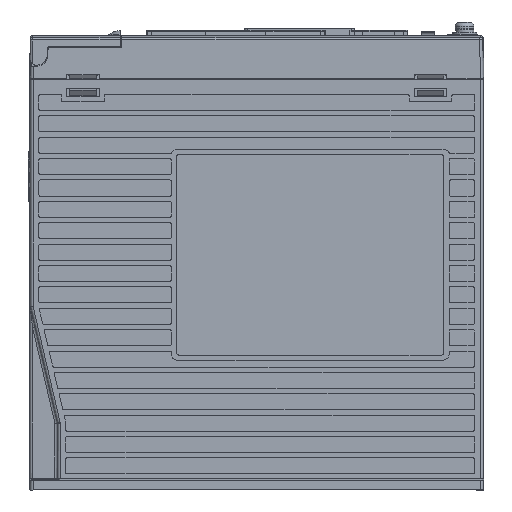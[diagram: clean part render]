
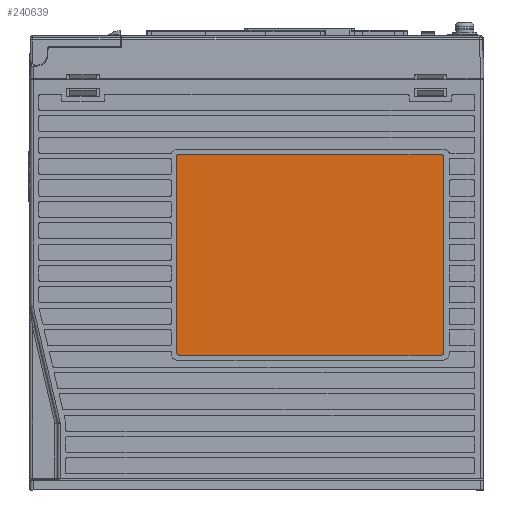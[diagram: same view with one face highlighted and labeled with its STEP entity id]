
A CAD part, left-side view. The second image highlights one B-rep face of the part: STEP entity #240639.
In plain terms, the highlighted planar face has unit normal (-1, 0, 0).
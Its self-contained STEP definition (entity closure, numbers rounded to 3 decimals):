
#93782=CARTESIAN_POINT('',(-22.2,29.,124.5));
#93783=DIRECTION('',(-1.,0.,0.));
#93784=DIRECTION('',(0.,0.,1.));
#93785=AXIS2_PLACEMENT_3D('',#93782,#93783,#93784);
#93790=DIRECTION('',(0.,1.,0.));
#93791=VECTOR('',#93790,98.);
#93792=CARTESIAN_POINT('',(-22.2,-69.,125.5));
#93793=LINE('',#93792,#93791);
#93797=CARTESIAN_POINT('',(-22.2,-69.,124.5));
#93798=DIRECTION('',(-1.,0.,0.));
#93799=DIRECTION('',(0.,-1.,0.));
#93800=AXIS2_PLACEMENT_3D('',#93797,#93798,#93799);
#93805=DIRECTION('',(0.,0.,1.));
#93806=VECTOR('',#93805,73.);
#93807=CARTESIAN_POINT('',(-22.2,-70.,51.5));
#93808=LINE('',#93807,#93806);
#93812=CARTESIAN_POINT('',(-22.2,-69.,51.5));
#93813=DIRECTION('',(-1.,0.,0.));
#93814=DIRECTION('',(0.,0.,-1.));
#93815=AXIS2_PLACEMENT_3D('',#93812,#93813,#93814);
#93820=DIRECTION('',(0.,-1.,0.));
#93821=VECTOR('',#93820,98.);
#93822=CARTESIAN_POINT('',(-22.2,29.,50.5));
#93823=LINE('',#93822,#93821);
#93827=CARTESIAN_POINT('',(-22.2,29.,51.5));
#93828=DIRECTION('',(-1.,0.,0.));
#93829=DIRECTION('',(0.,1.,0.));
#93830=AXIS2_PLACEMENT_3D('',#93827,#93828,#93829);
#93835=DIRECTION('',(0.,0.,-1.));
#93836=VECTOR('',#93835,73.);
#93837=CARTESIAN_POINT('',(-22.2,30.,124.5));
#93838=LINE('',#93837,#93836);
#158784=CARTESIAN_POINT('',(-22.2,29.,125.5));
#158785=CARTESIAN_POINT('',(-22.2,30.,124.5));
#158786=VERTEX_POINT('',#158784);
#158787=VERTEX_POINT('',#158785);
#158792=CARTESIAN_POINT('',(-22.2,30.,51.5));
#158793=CARTESIAN_POINT('',(-22.2,29.,50.5));
#158794=VERTEX_POINT('',#158792);
#158795=VERTEX_POINT('',#158793);
#158800=CARTESIAN_POINT('',(-22.2,-69.,50.5));
#158801=CARTESIAN_POINT('',(-22.2,-70.,51.5));
#158802=VERTEX_POINT('',#158800);
#158803=VERTEX_POINT('',#158801);
#158808=CARTESIAN_POINT('',(-22.2,-70.,124.5));
#158809=CARTESIAN_POINT('',(-22.2,-69.,125.5));
#158810=VERTEX_POINT('',#158808);
#158811=VERTEX_POINT('',#158809);
#240618=CARTESIAN_POINT('',(-22.2,0.,-20.));
#240619=DIRECTION('',(-1.,0.,0.));
#240620=DIRECTION('',(0.,-1.,0.));
#240621=AXIS2_PLACEMENT_3D('',#240618,#240619,#240620);
#240622=PLANE('',#240621);
#240623=ORIENTED_EDGE('',*,*,#240609,.F.);
#240625=ORIENTED_EDGE('',*,*,#240624,.F.);
#240627=ORIENTED_EDGE('',*,*,#240626,.F.);
#240629=ORIENTED_EDGE('',*,*,#240628,.F.);
#240631=ORIENTED_EDGE('',*,*,#240630,.F.);
#240633=ORIENTED_EDGE('',*,*,#240632,.F.);
#240635=ORIENTED_EDGE('',*,*,#240634,.F.);
#240636=ORIENTED_EDGE('',*,*,#240596,.F.);
#240637=EDGE_LOOP('',(#240623,#240625,#240627,#240629,#240631,#240633,#240635,
#240636));
#240638=FACE_OUTER_BOUND('',#240637,.F.);
#93786=CIRCLE('',#93785,1.);
#93801=CIRCLE('',#93800,1.);
#93816=CIRCLE('',#93815,1.);
#93831=CIRCLE('',#93830,1.);
#240596=EDGE_CURVE('',#158787,#158794,#93838,.T.);
#240609=EDGE_CURVE('',#158786,#158787,#93786,.T.);
#240624=EDGE_CURVE('',#158811,#158786,#93793,.T.);
#240626=EDGE_CURVE('',#158810,#158811,#93801,.T.);
#240628=EDGE_CURVE('',#158803,#158810,#93808,.T.);
#240630=EDGE_CURVE('',#158802,#158803,#93816,.T.);
#240632=EDGE_CURVE('',#158795,#158802,#93823,.T.);
#240634=EDGE_CURVE('',#158794,#158795,#93831,.T.);
#240639=ADVANCED_FACE('',(#240638),#240622,.T.);
